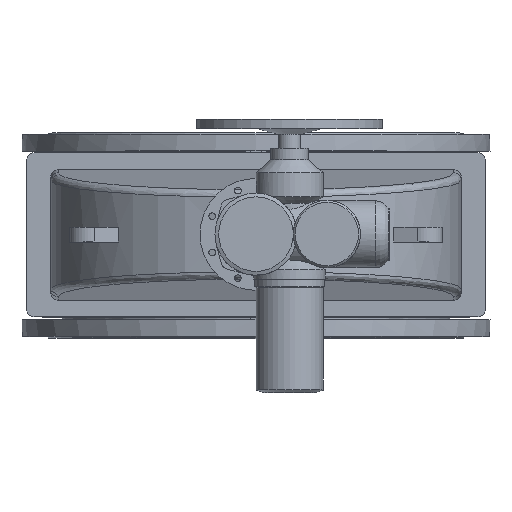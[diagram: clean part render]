
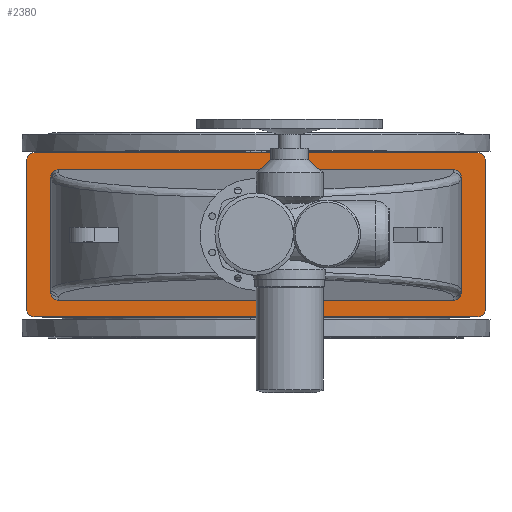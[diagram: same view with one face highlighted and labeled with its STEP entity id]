
A CAD part, top view. The second image highlights one B-rep face of the part: STEP entity #2380.
In plain terms, the highlighted planar face has unit normal (0, 0, 1).
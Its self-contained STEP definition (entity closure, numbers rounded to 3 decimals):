
#2380=ADVANCED_FACE('',(#7870,#7872),#7874,.T.);
#7870=FACE_BOUND('',#7871,.T.);
#7871=EDGE_LOOP('',(#10756,#10757,#10758,#10759,#10760,#10761,#10762,#10763));
#7872=FACE_BOUND('',#7873,.T.);
#7873=EDGE_LOOP('',(#10764,#10765,#10766,#10767,#10768,#10769,#10770,#10771));
#7874=PLANE('',#7875);
#7875=AXIS2_PLACEMENT_3D('',#7876,#7877,#7878);
#7876=CARTESIAN_POINT('',(0.,0.,1116.));
#7877=DIRECTION('',(0.,-0.,1.));
#7878=DIRECTION('',(0.,1.,0.));
#10756=ORIENTED_EDGE('',*,*,#11892,.F.);
#10757=ORIENTED_EDGE('',*,*,#11905,.T.);
#10758=ORIENTED_EDGE('',*,*,#11904,.F.);
#10759=ORIENTED_EDGE('',*,*,#11902,.T.);
#10760=ORIENTED_EDGE('',*,*,#11900,.F.);
#10761=ORIENTED_EDGE('',*,*,#11898,.T.);
#10762=ORIENTED_EDGE('',*,*,#11896,.F.);
#10763=ORIENTED_EDGE('',*,*,#11893,.T.);
#10764=ORIENTED_EDGE('',*,*,#11906,.F.);
#10765=ORIENTED_EDGE('',*,*,#11907,.F.);
#10766=ORIENTED_EDGE('',*,*,#11908,.F.);
#10767=ORIENTED_EDGE('',*,*,#11909,.F.);
#10768=ORIENTED_EDGE('',*,*,#11910,.F.);
#10769=ORIENTED_EDGE('',*,*,#11911,.F.);
#10770=ORIENTED_EDGE('',*,*,#11912,.F.);
#10771=ORIENTED_EDGE('',*,*,#11913,.F.);
#11892=EDGE_CURVE('',#13180,#13178,#13182,.F.);
#11893=EDGE_CURVE('',#13183,#13178,#13184,.T.);
#11896=EDGE_CURVE('',#13183,#13186,#13188,.F.);
#11898=EDGE_CURVE('',#13189,#13186,#13191,.T.);
#11900=EDGE_CURVE('',#13189,#13192,#13194,.F.);
#11902=EDGE_CURVE('',#13195,#13192,#13197,.T.);
#11904=EDGE_CURVE('',#13195,#13198,#13200,.F.);
#11905=EDGE_CURVE('',#13180,#13198,#13201,.T.);
#11906=EDGE_CURVE('',#13202,#13203,#13204,.F.);
#11907=EDGE_CURVE('',#13205,#13202,#13206,.T.);
#11908=EDGE_CURVE('',#13207,#13205,#13208,.T.);
#11909=EDGE_CURVE('',#13209,#13207,#13210,.T.);
#11910=EDGE_CURVE('',#13211,#13209,#13212,.F.);
#11911=EDGE_CURVE('',#13213,#13211,#13214,.T.);
#11912=EDGE_CURVE('',#13215,#13213,#13216,.T.);
#11913=EDGE_CURVE('',#13203,#13215,#13217,.T.);
#13178=VERTEX_POINT('',#16624);
#13180=VERTEX_POINT('',#16628);
#13182=CIRCLE('',#16632,20.);
#13183=VERTEX_POINT('',#16636);
#13184=LINE('',#16637,#16638);
#13186=VERTEX_POINT('',#16643);
#13188=CIRCLE('',#16647,20.);
#13189=VERTEX_POINT('',#16651);
#13191=LINE('',#16655,#16656);
#13192=VERTEX_POINT('',#16658);
#13194=CIRCLE('',#16662,20.);
#13195=VERTEX_POINT('',#16666);
#13197=LINE('',#16670,#16671);
#13198=VERTEX_POINT('',#16673);
#13200=CIRCLE('',#16677,20.);
#13201=LINE('',#16681,#16682);
#13202=VERTEX_POINT('',#16684);
#13203=VERTEX_POINT('',#16685);
#13204=(BOUNDED_CURVE()B_SPLINE_CURVE(3,
(#16686,#16687,#16688,#16689),
.UNSPECIFIED.,.F.,.F.)B_SPLINE_CURVE_WITH_KNOTS((4,4),
(0.,1.),
.UNSPECIFIED.)CURVE()GEOMETRIC_REPRESENTATION_ITEM()RATIONAL_B_SPLINE_CURVE((1.,
0.805,0.805,1.))REPRESENTATION_ITEM(''));
#13205=VERTEX_POINT('',#16690);
#13206=LINE('',#16691,#16692);
#13207=VERTEX_POINT('',#16694);
#13208=(BOUNDED_CURVE()B_SPLINE_CURVE(3,
(#16695,#16696,#16697,#16698),
.UNSPECIFIED.,.F.,.F.)B_SPLINE_CURVE_WITH_KNOTS((4,4),
(0.,1.),
.UNSPECIFIED.)CURVE()GEOMETRIC_REPRESENTATION_ITEM()RATIONAL_B_SPLINE_CURVE((1.,
0.805,0.805,1.))REPRESENTATION_ITEM(''));
#13209=VERTEX_POINT('',#16699);
#13210=LINE('',#16700,#16701);
#13211=VERTEX_POINT('',#16703);
#13212=(BOUNDED_CURVE()B_SPLINE_CURVE(3,
(#16704,#16705,#16706,#16707),
.UNSPECIFIED.,.F.,.F.)B_SPLINE_CURVE_WITH_KNOTS((4,4),
(0.,1.),
.UNSPECIFIED.)CURVE()GEOMETRIC_REPRESENTATION_ITEM()RATIONAL_B_SPLINE_CURVE((1.,
0.805,0.805,1.))REPRESENTATION_ITEM(''));
#13213=VERTEX_POINT('',#16708);
#13214=LINE('',#16709,#16710);
#13215=VERTEX_POINT('',#16712);
#13216=(BOUNDED_CURVE()B_SPLINE_CURVE(3,
(#16713,#16714,#16715,#16716),
.UNSPECIFIED.,.F.,.F.)B_SPLINE_CURVE_WITH_KNOTS((4,4),
(0.,1.),
.UNSPECIFIED.)CURVE()GEOMETRIC_REPRESENTATION_ITEM()RATIONAL_B_SPLINE_CURVE((1.,
0.805,0.805,1.))REPRESENTATION_ITEM(''));
#13217=LINE('',#16717,#16718);
#16624=CARTESIAN_POINT('',(-615.,-200.,1116.));
#16628=CARTESIAN_POINT('',(-595.,-220.,1116.));
#16632=AXIS2_PLACEMENT_3D('',#16633,#16634,#16635);
#16633=CARTESIAN_POINT('',(-595.,-200.,1116.));
#16634=DIRECTION('',(0.,-0.,1.));
#16635=DIRECTION('',(-1.,0.,0.));
#16636=CARTESIAN_POINT('',(-615.,200.,1116.));
#16637=CARTESIAN_POINT('',(-615.,200.,1116.));
#16638=VECTOR('',#16639,1.);
#16639=DIRECTION('',(0.,-1.,0.));
#16643=CARTESIAN_POINT('',(-595.,220.,1116.));
#16647=AXIS2_PLACEMENT_3D('',#16648,#16649,#16650);
#16648=CARTESIAN_POINT('',(-595.,200.,1116.));
#16649=DIRECTION('',(0.,-0.,1.));
#16650=DIRECTION('',(0.,1.,0.));
#16651=CARTESIAN_POINT('',(595.,220.,1116.));
#16655=CARTESIAN_POINT('',(595.,220.,1116.));
#16656=VECTOR('',#16657,1.);
#16657=DIRECTION('',(-1.,0.,0.));
#16658=CARTESIAN_POINT('',(615.,200.,1116.));
#16662=AXIS2_PLACEMENT_3D('',#16663,#16664,#16665);
#16663=CARTESIAN_POINT('',(595.,200.,1116.));
#16664=DIRECTION('',(0.,-0.,1.));
#16665=DIRECTION('',(1.,0.,0.));
#16666=CARTESIAN_POINT('',(615.,-200.,1116.));
#16670=CARTESIAN_POINT('',(615.,-200.,1116.));
#16671=VECTOR('',#16672,1.);
#16672=DIRECTION('',(0.,1.,0.));
#16673=CARTESIAN_POINT('',(595.,-220.,1116.));
#16677=AXIS2_PLACEMENT_3D('',#16678,#16679,#16680);
#16678=CARTESIAN_POINT('',(595.,-200.,1116.));
#16679=DIRECTION('',(0.,-0.,1.));
#16680=DIRECTION('',(0.,-1.,0.));
#16681=CARTESIAN_POINT('',(-595.,-220.,1116.));
#16682=VECTOR('',#16683,1.);
#16683=DIRECTION('',(1.,0.,0.));
#16684=CARTESIAN_POINT('',(530.,-175.,1116.));
#16685=CARTESIAN_POINT('',(550.,-154.924,1116.));
#16686=CARTESIAN_POINT('',(550.,-154.924,1116.));
#16687=CARTESIAN_POINT('',(550.,-166.684,1116.));
#16688=CARTESIAN_POINT('',(541.716,-175.,1116.));
#16689=CARTESIAN_POINT('',(530.,-175.,1116.));
#16690=CARTESIAN_POINT('',(-530.,-175.,1116.));
#16691=CARTESIAN_POINT('',(-530.,-175.,1116.));
#16692=VECTOR('',#16693,1.);
#16693=DIRECTION('',(1.,0.,0.));
#16694=CARTESIAN_POINT('',(-550.,-154.924,1116.));
#16695=CARTESIAN_POINT('',(-550.,-154.924,1116.));
#16696=CARTESIAN_POINT('',(-550.,-166.684,1116.));
#16697=CARTESIAN_POINT('',(-541.716,-175.,1116.));
#16698=CARTESIAN_POINT('',(-530.,-175.,1116.));
#16699=CARTESIAN_POINT('',(-550.,154.924,1116.));
#16700=CARTESIAN_POINT('',(-550.,154.924,1116.));
#16701=VECTOR('',#16702,1.);
#16702=DIRECTION('',(0.,-1.,0.));
#16703=CARTESIAN_POINT('',(-530.,175.,1116.));
#16704=CARTESIAN_POINT('',(-550.,154.924,1116.));
#16705=CARTESIAN_POINT('',(-550.,166.684,1116.));
#16706=CARTESIAN_POINT('',(-541.716,175.,1116.));
#16707=CARTESIAN_POINT('',(-530.,175.,1116.));
#16708=CARTESIAN_POINT('',(530.,175.,1116.));
#16709=CARTESIAN_POINT('',(530.,175.,1116.));
#16710=VECTOR('',#16711,1.);
#16711=DIRECTION('',(-1.,0.,0.));
#16712=CARTESIAN_POINT('',(550.,154.924,1116.));
#16713=CARTESIAN_POINT('',(550.,154.924,1116.));
#16714=CARTESIAN_POINT('',(550.,166.684,1116.));
#16715=CARTESIAN_POINT('',(541.716,175.,1116.));
#16716=CARTESIAN_POINT('',(530.,175.,1116.));
#16717=CARTESIAN_POINT('',(550.,-154.924,1116.));
#16718=VECTOR('',#16719,1.);
#16719=DIRECTION('',(0.,1.,0.));
